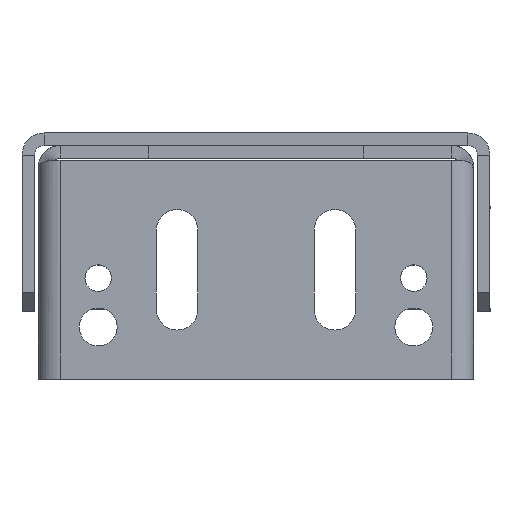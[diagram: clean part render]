
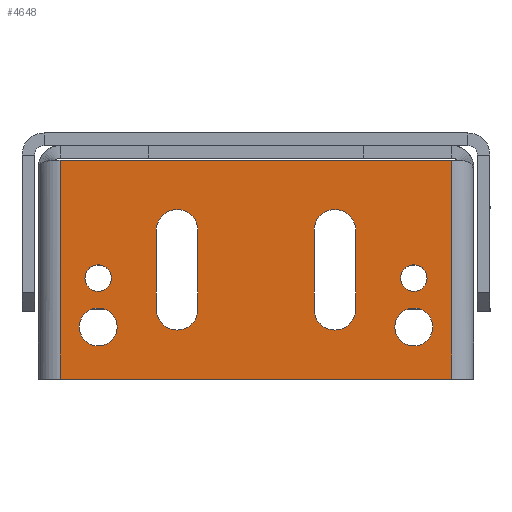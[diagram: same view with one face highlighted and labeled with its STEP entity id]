
A CAD part, left-side view. The second image highlights one B-rep face of the part: STEP entity #4648.
In plain terms, the highlighted planar face has unit normal (-1, 0, 0) as drawn and (0, 0, 1) by its records, which use the part's own axes.
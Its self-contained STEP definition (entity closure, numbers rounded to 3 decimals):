
#4648=ADVANCED_FACE('',(#9086,#9088,#9090,#9092,#9094,#9096,#9098),#9100,.F.);
#9086=FACE_BOUND('',#9087,.T.);
#9087=EDGE_LOOP('',(#12389,#12390,#12391,#12392));
#9088=FACE_BOUND('',#9089,.T.);
#9089=EDGE_LOOP('',(#12393,#12394,#12395,#12396));
#9090=FACE_BOUND('',#9091,.T.);
#9091=EDGE_LOOP('',(#12397,#12398,#12399,#12400));
#9092=FACE_BOUND('',#9093,.T.);
#9093=EDGE_LOOP('',(#12401));
#9094=FACE_BOUND('',#9095,.T.);
#9095=EDGE_LOOP('',(#12402));
#9096=FACE_BOUND('',#9097,.T.);
#9097=EDGE_LOOP('',(#12403));
#9098=FACE_BOUND('',#9099,.T.);
#9099=EDGE_LOOP('',(#12404));
#9100=PLANE('',#9101);
#9101=AXIS2_PLACEMENT_3D('',#9102,#9103,#9104);
#9102=CARTESIAN_POINT('',(18.5,34.5,0.));
#9103=DIRECTION('',(0.,0.,-1.));
#9104=DIRECTION('',(-1.,0.,0.));
#12389=ORIENTED_EDGE('',*,*,#13961,.F.);
#12390=ORIENTED_EDGE('',*,*,#13962,.T.);
#12391=ORIENTED_EDGE('',*,*,#13963,.T.);
#12392=ORIENTED_EDGE('',*,*,#13964,.F.);
#12393=ORIENTED_EDGE('',*,*,#13965,.F.);
#12394=ORIENTED_EDGE('',*,*,#13966,.F.);
#12395=ORIENTED_EDGE('',*,*,#13967,.F.);
#12396=ORIENTED_EDGE('',*,*,#13866,.F.);
#12397=ORIENTED_EDGE('',*,*,#13968,.F.);
#12398=ORIENTED_EDGE('',*,*,#13969,.F.);
#12399=ORIENTED_EDGE('',*,*,#13970,.F.);
#12400=ORIENTED_EDGE('',*,*,#13870,.F.);
#12401=ORIENTED_EDGE('',*,*,#13905,.F.);
#12402=ORIENTED_EDGE('',*,*,#13907,.F.);
#12403=ORIENTED_EDGE('',*,*,#13909,.F.);
#12404=ORIENTED_EDGE('',*,*,#13911,.F.);
#13866=EDGE_CURVE('',#16234,#16236,#16237,.T.);
#13870=EDGE_CURVE('',#16242,#16244,#16245,.T.);
#13905=EDGE_CURVE('',#16309,#16309,#16310,.T.);
#13907=EDGE_CURVE('',#16313,#16313,#16314,.T.);
#13909=EDGE_CURVE('',#16317,#16317,#16318,.T.);
#13911=EDGE_CURVE('',#16321,#16321,#16322,.T.);
#13961=EDGE_CURVE('',#16411,#16412,#16413,.T.);
#13962=EDGE_CURVE('',#16411,#16414,#16415,.T.);
#13963=EDGE_CURVE('',#16414,#16416,#16417,.T.);
#13964=EDGE_CURVE('',#16412,#16416,#16418,.T.);
#13965=EDGE_CURVE('',#16419,#16234,#16420,.T.);
#13966=EDGE_CURVE('',#16421,#16419,#16422,.T.);
#13967=EDGE_CURVE('',#16236,#16421,#16423,.T.);
#13968=EDGE_CURVE('',#16424,#16242,#16425,.T.);
#13969=EDGE_CURVE('',#16426,#16424,#16427,.T.);
#13970=EDGE_CURVE('',#16244,#16426,#16428,.T.);
#16234=VERTEX_POINT('',#21826);
#16236=VERTEX_POINT('',#21830);
#16237=CIRCLE('',#21831,3.3);
#16242=VERTEX_POINT('',#21844);
#16244=VERTEX_POINT('',#21848);
#16245=CIRCLE('',#21849,3.3);
#16309=VERTEX_POINT('',#22013);
#16310=CIRCLE('',#22014,2.1);
#16313=VERTEX_POINT('',#22023);
#16314=CIRCLE('',#22024,3.);
#16317=VERTEX_POINT('',#22033);
#16318=CIRCLE('',#22034,2.1);
#16321=VERTEX_POINT('',#22043);
#16322=CIRCLE('',#22044,3.);
#16411=VERTEX_POINT('',#22237);
#16412=VERTEX_POINT('',#22238);
#16413=LINE('',#22239,#22240);
#16414=VERTEX_POINT('',#22242);
#16415=LINE('',#22243,#22244);
#16416=VERTEX_POINT('',#22246);
#16417=LINE('',#22247,#22248);
#16418=LINE('',#22250,#22251);
#16419=VERTEX_POINT('',#22253);
#16420=LINE('',#22254,#22255);
#16421=VERTEX_POINT('',#22257);
#16422=CIRCLE('',#22258,3.3);
#16423=LINE('',#22262,#22263);
#16424=VERTEX_POINT('',#22265);
#16425=LINE('',#22266,#22267);
#16426=VERTEX_POINT('',#22269);
#16427=CIRCLE('',#22270,3.3);
#16428=LINE('',#22274,#22275);
#21826=CARTESIAN_POINT('',(5.073,-15.8,0.));
#21830=CARTESIAN_POINT('',(5.073,-9.2,0.));
#21831=AXIS2_PLACEMENT_3D('',#21832,#21833,#21834);
#21832=CARTESIAN_POINT('',(5.073,-12.5,0.));
#21833=DIRECTION('',(0.,0.,1.));
#21834=DIRECTION('',(0.,-1.,0.));
#21844=CARTESIAN_POINT('',(5.073,9.2,0.));
#21848=CARTESIAN_POINT('',(5.073,15.8,0.));
#21849=AXIS2_PLACEMENT_3D('',#21850,#21851,#21852);
#21850=CARTESIAN_POINT('',(5.073,12.5,0.));
#21851=DIRECTION('',(0.,0.,1.));
#21852=DIRECTION('',(0.,-1.,0.));
#22013=CARTESIAN_POINT('',(-0.4,-25.,0.));
#22014=AXIS2_PLACEMENT_3D('',#22015,#22016,#22017);
#22015=CARTESIAN_POINT('',(-2.5,-25.,0.));
#22016=DIRECTION('',(0.,0.,1.));
#22017=DIRECTION('',(-1.,0.,0.));
#22023=CARTESIAN_POINT('',(-7.25,-25.,0.));
#22024=AXIS2_PLACEMENT_3D('',#22025,#22026,#22027);
#22025=CARTESIAN_POINT('',(-10.25,-25.,0.));
#22026=DIRECTION('',(0.,0.,1.));
#22027=DIRECTION('',(-1.,0.,0.));
#22033=CARTESIAN_POINT('',(-0.4,25.,0.));
#22034=AXIS2_PLACEMENT_3D('',#22035,#22036,#22037);
#22035=CARTESIAN_POINT('',(-2.5,25.,0.));
#22036=DIRECTION('',(0.,0.,1.));
#22037=DIRECTION('',(-1.,0.,0.));
#22043=CARTESIAN_POINT('',(-7.25,25.,0.));
#22044=AXIS2_PLACEMENT_3D('',#22045,#22046,#22047);
#22045=CARTESIAN_POINT('',(-10.25,25.,0.));
#22046=DIRECTION('',(0.,0.,1.));
#22047=DIRECTION('',(-1.,0.,0.));
#22237=CARTESIAN_POINT('',(16.146,31.,0.));
#22238=CARTESIAN_POINT('',(16.146,-31.,0.));
#22239=CARTESIAN_POINT('',(16.146,31.,0.));
#22240=VECTOR('',#22241,1.);
#22241=DIRECTION('',(0.,-1.,0.));
#22242=CARTESIAN_POINT('',(-18.5,31.,0.));
#22243=CARTESIAN_POINT('',(16.146,31.,0.));
#22244=VECTOR('',#22245,1.);
#22245=DIRECTION('',(-1.,0.,0.));
#22246=CARTESIAN_POINT('',(-18.5,-31.,0.));
#22247=CARTESIAN_POINT('',(-18.5,31.,0.));
#22248=VECTOR('',#22249,1.);
#22249=DIRECTION('',(0.,-1.,0.));
#22250=CARTESIAN_POINT('',(16.146,-31.,0.));
#22251=VECTOR('',#22252,1.);
#22252=DIRECTION('',(-1.,0.,0.));
#22253=CARTESIAN_POINT('',(-7.427,-15.8,0.));
#22254=CARTESIAN_POINT('',(-7.427,-15.8,0.));
#22255=VECTOR('',#22256,1.);
#22256=DIRECTION('',(1.,0.,0.));
#22257=CARTESIAN_POINT('',(-7.427,-9.2,0.));
#22258=AXIS2_PLACEMENT_3D('',#22259,#22260,#22261);
#22259=CARTESIAN_POINT('',(-7.427,-12.5,0.));
#22260=DIRECTION('',(0.,0.,1.));
#22261=DIRECTION('',(0.,1.,0.));
#22262=CARTESIAN_POINT('',(5.073,-9.2,0.));
#22263=VECTOR('',#22264,1.);
#22264=DIRECTION('',(-1.,0.,0.));
#22265=CARTESIAN_POINT('',(-7.427,9.2,0.));
#22266=CARTESIAN_POINT('',(-7.427,9.2,0.));
#22267=VECTOR('',#22268,1.);
#22268=DIRECTION('',(1.,0.,0.));
#22269=CARTESIAN_POINT('',(-7.427,15.8,0.));
#22270=AXIS2_PLACEMENT_3D('',#22271,#22272,#22273);
#22271=CARTESIAN_POINT('',(-7.427,12.5,0.));
#22272=DIRECTION('',(0.,0.,1.));
#22273=DIRECTION('',(0.,1.,0.));
#22274=CARTESIAN_POINT('',(5.073,15.8,0.));
#22275=VECTOR('',#22276,1.);
#22276=DIRECTION('',(-1.,0.,0.));
